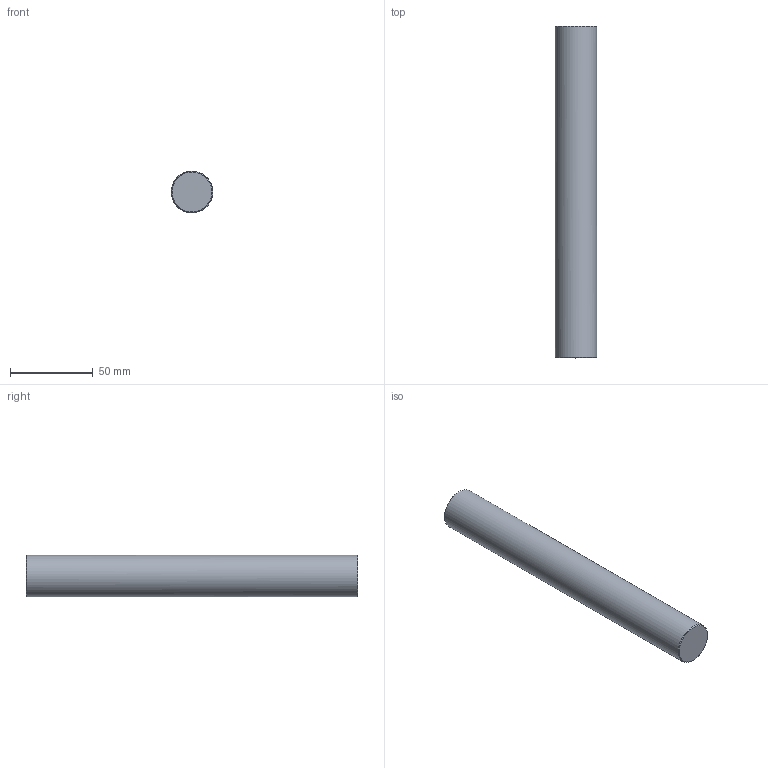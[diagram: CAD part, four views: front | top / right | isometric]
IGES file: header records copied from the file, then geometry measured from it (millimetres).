
Global section: file name: BM02-25D-200L; native system: unknown; preprocessor: unknown; author: unknown; organization: unknown; date: 20231024.135743; units: millimetre
Bounding box: 25 x 200 x 25 mm (x, y, z)
Volume: 97399.8 mm3; surface area: 17082.2 mm2
Topology: 1 solids, 1 shells, 7 faces, 14 edges, 9 vertices
Faces by surface type: bspline 7
